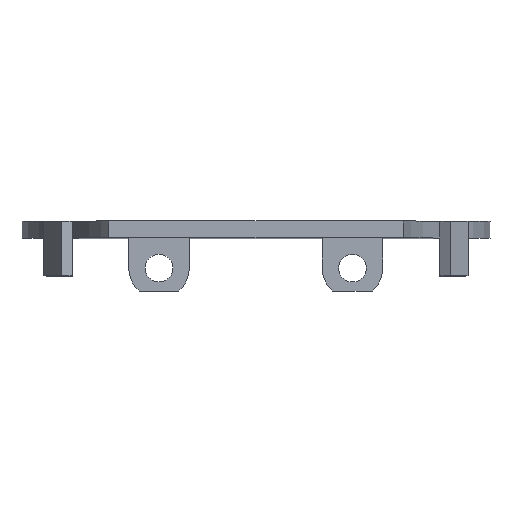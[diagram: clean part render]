
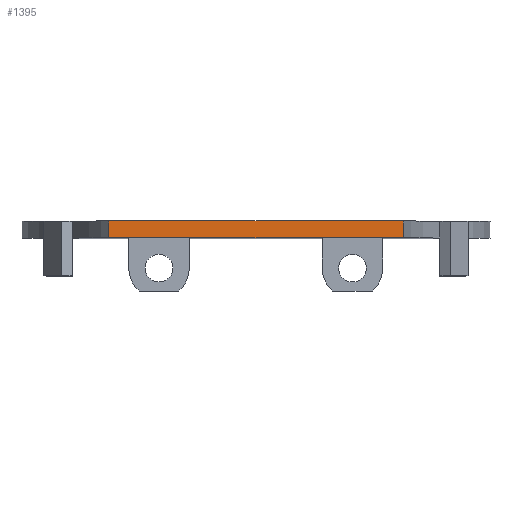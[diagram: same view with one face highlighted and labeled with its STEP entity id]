
A CAD part, top view. The second image highlights one B-rep face of the part: STEP entity #1395.
In plain terms, the highlighted planar face has unit normal (0, 0, 1).
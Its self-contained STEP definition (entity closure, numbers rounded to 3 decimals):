
#26 = CARTESIAN_POINT ( 'NONE',  ( -16.891, -1.566, 18.715 ) ) ;
#41 = LINE ( 'NONE', #26, #1068 ) ;
#87 = DIRECTION ( 'NONE',  ( -1., 0., 0. ) ) ;
#108 = EDGE_CURVE ( 'NONE', #1907, #1919, #203, .T. ) ;
#131 = CARTESIAN_POINT ( 'NONE',  ( 7.438, -1.566, 18.715 ) ) ;
#175 = EDGE_CURVE ( 'NONE', #1919, #658, #1257, .T. ) ;
#192 = CARTESIAN_POINT ( 'NONE',  ( 0., -1.566, 18.715 ) ) ;
#203 = LINE ( 'NONE', #848, #1406 ) ;
#332 = ORIENTED_EDGE ( 'NONE', *, *, #108, .T. ) ;
#361 = FACE_OUTER_BOUND ( 'NONE', #1022, .T. ) ;
#394 = LINE ( 'NONE', #887, #1681 ) ;
#421 = CARTESIAN_POINT ( 'NONE',  ( -16.891, -0.166, 18.715 ) ) ;
#424 = ORIENTED_EDGE ( 'NONE', *, *, #175, .T. ) ;
#577 = EDGE_CURVE ( 'NONE', #1907, #1564, #394, .T. ) ;
#647 = ORIENTED_EDGE ( 'NONE', *, *, #577, .F. ) ;
#658 = VERTEX_POINT ( 'NONE', #421 ) ;
#759 = CARTESIAN_POINT ( 'NONE',  ( -16.891, -1.566, 18.715 ) ) ;
#836 = DIRECTION ( 'NONE',  ( -1., 0., 0. ) ) ;
#848 = CARTESIAN_POINT ( 'NONE',  ( 7.438, -1.566, 18.715 ) ) ;
#852 = EDGE_CURVE ( 'NONE', #1564, #658, #41, .T. ) ;
#887 = CARTESIAN_POINT ( 'NONE',  ( 0., -1.566, 18.715 ) ) ;
#964 = VECTOR ( 'NONE', #1583, 1000. ) ;
#1005 = DIRECTION ( 'NONE',  ( 0., 0., -1. ) ) ;
#1022 = EDGE_LOOP ( 'NONE', ( #424, #1357, #647, #332 ) ) ;
#1068 = VECTOR ( 'NONE', #1802, 1000. ) ;
#1154 = PLANE ( 'NONE',  #1168 ) ;
#1168 = AXIS2_PLACEMENT_3D ( 'NONE', #192, #1005, #836 ) ;
#1257 = LINE ( 'NONE', #1880, #964 ) ;
#1357 = ORIENTED_EDGE ( 'NONE', *, *, #852, .F. ) ;
#1395 = ADVANCED_FACE ( 'NONE', ( #361 ), #1154, .F. ) ;
#1406 = VECTOR ( 'NONE', #1537, 1000. ) ;
#1537 = DIRECTION ( 'NONE',  ( 0., 1., 0. ) ) ;
#1564 = VERTEX_POINT ( 'NONE', #759 ) ;
#1583 = DIRECTION ( 'NONE',  ( -1., 0., 0. ) ) ;
#1681 = VECTOR ( 'NONE', #87, 1000. ) ;
#1802 = DIRECTION ( 'NONE',  ( 0., 1., 0. ) ) ;
#1880 = CARTESIAN_POINT ( 'NONE',  ( 0., -0.166, 18.715 ) ) ;
#1900 = CARTESIAN_POINT ( 'NONE',  ( 7.438, -0.166, 18.715 ) ) ;
#1907 = VERTEX_POINT ( 'NONE', #131 ) ;
#1919 = VERTEX_POINT ( 'NONE', #1900 ) ;
